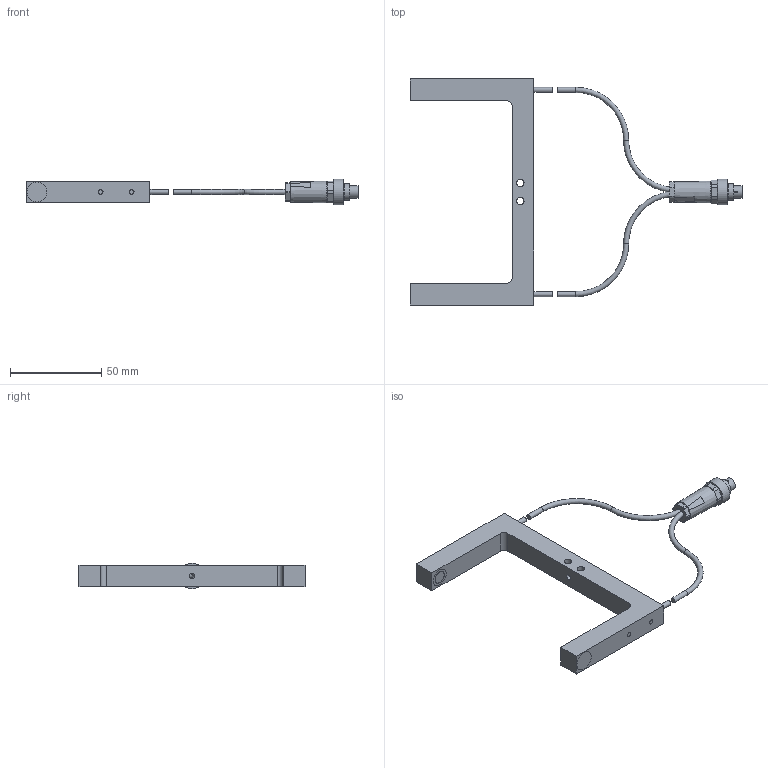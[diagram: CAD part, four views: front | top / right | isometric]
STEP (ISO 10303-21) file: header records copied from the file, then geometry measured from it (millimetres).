
FILE_DESCRIPTION(/* description */ (''),/* implementation_level */ '2;1');
FILE_NAME(/* name */ 'H:\ZVW\Inventor\E-Mail-Zeichnungen\STEP\HOMEPAGE\A-LAS-F12-...-100_50-C_0720_00.stp',/* time_stamp */ '2014-08-18T16:56:46+02:00',/* author */ ('TK-01'),/* organization */ (''),/* preprocessor_version */ 'ST-DEVELOPER v15.2',/* originating_system */ 'Autodesk Inventor 2014',/* authorisation */ '');
FILE_SCHEMA (('AUTOMOTIVE_DESIGN { 1 0 10303 214 3 1 1 }'));
Length unit declared in the file: millimetre
Products named in the file (1): Bauteil21
Bounding box: 182.1 x 124 x 14 mm (x, y, z)
Volume: 139395 mm3; surface area: 52514.7 mm2
Topology: 8 solids, 12 shells, 159 faces, 341 edges, 224 vertices
Faces by surface type: plane 72, cylinder 60, cone 11, sphere 9, torus 5, bspline 2
Full cylindrical faces by diameter (mm): 0.5 x7, 2.5 x8, 2.8 x4, 2.9 x2, 3.2 x1, 4.1 x2, 5.5 x1, 6 x1, 6.8 x1, 7.1 x1, 7.15 x2, 7.5 x1, 8 x1, 9 x2, 10 x2, 14 x1
Entity records: 4154 total; most frequent: CARTESIAN_POINT 802, DIRECTION 698, ORIENTED_EDGE 520, AXIS2_PLACEMENT_3D 305, EDGE_CURVE 256, EDGE_LOOP 248, VERTEX_POINT 196, ADVANCED_FACE 159
